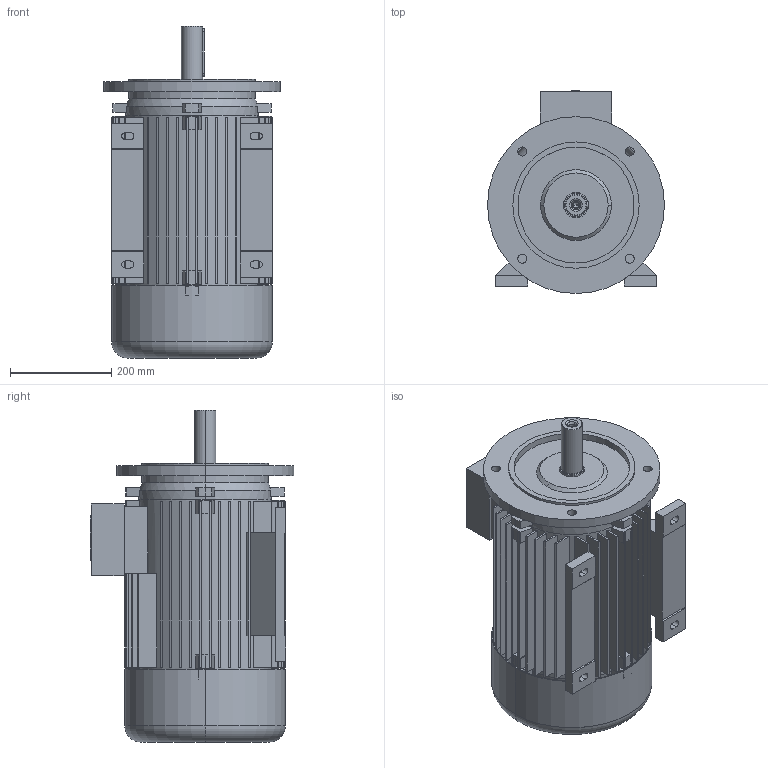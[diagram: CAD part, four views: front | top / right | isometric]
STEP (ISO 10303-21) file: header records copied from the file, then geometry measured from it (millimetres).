
FILE_DESCRIPTION (( 'STEP AP203' ), '1' );
FILE_NAME ('5AZ 160L config.STEP', '2018-07-03T09:07:53', ( '' ), ( '' ), 'SwSTEP 2.0', 'SolidWorks 2018', '' );
FILE_SCHEMA (( 'CONFIG_CONTROL_DESIGN' ));
Length unit declared in the file: millimetre
Products named in the file (1): 5AZ 160L config
Bounding box: 350 x 402 x 657 mm (x, y, z)
Volume: 12623167.9 mm3; surface area: 2577509.2 mm2
Topology: 7 solids, 7 shells, 558 faces, 1443 edges, 951 vertices
Faces by surface type: plane 380, cylinder 152, cone 22, torus 4
Entity records: 17286 total; most frequent: CARTESIAN_POINT 3087, DIRECTION 3027, ORIENTED_EDGE 2882, EDGE_CURVE 1441, AXIS2_PLACEMENT_3D 1047, VERTEX_POINT 951, LINE 933, VECTOR 933
